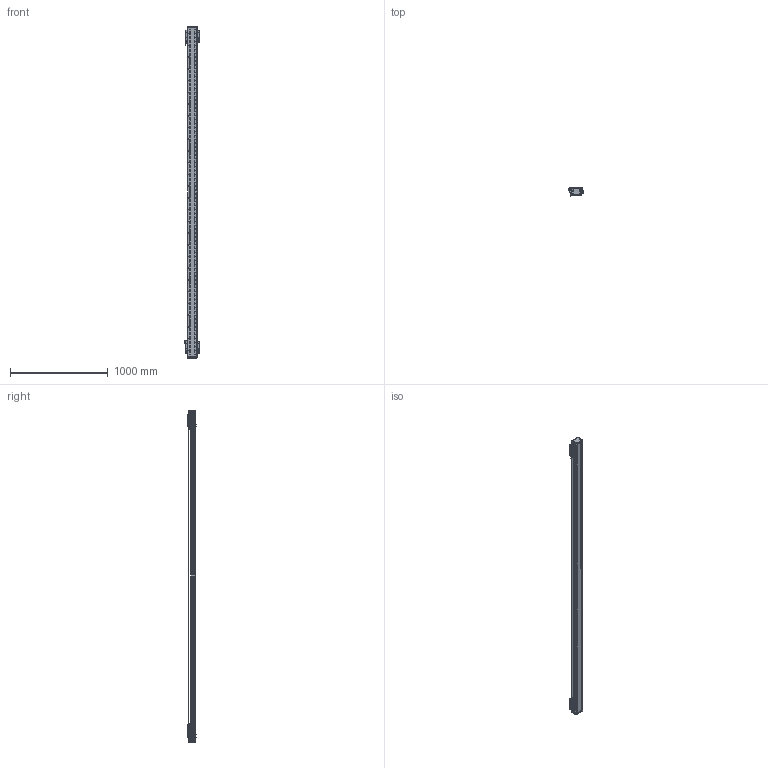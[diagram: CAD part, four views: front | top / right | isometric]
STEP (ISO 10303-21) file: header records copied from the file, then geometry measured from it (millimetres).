
FILE_DESCRIPTION (( 'STEP AP203' ), '1' );
FILE_NAME ('DA-B95-2-B15-T3020-C010-0.2 直线电机.STEP', '2023-05-06T06:45:09', ( '微软用户' ), ( '微软中国' ), 'SwSTEP 2.0', 'SolidWorks 2019', '' );
FILE_SCHEMA (( 'CONFIG_CONTROL_DESIGN' ));
Length unit declared in the file: millimetre
Products named in the file (34): LMDK-2-R001-V5-L02-C1-F00，0.2M 读数头^DA-A95-B15-T-C010-0.2-N 直线电机_DMA-010-0.2; 葩璃 PM-Y45^DA-A95-B15-T-C010-0.2-N 眻盄萇儂; 复件 DA95-DK-00 挡块^66245-BU95-V 滚珠滑台; IU-BU95-L-00 菁釱_L3360; DA-B95-2-B15-T3020-C010-0.2 眻盄萇儂; 复件 DA95-B15 钢带盖板^DA-A95-B15-T-C010-0.2-N 直线电机; 复件 纯铜油杯 6x6mm^66245-BU95-V 滚珠滑台; 复件 复件 18252-0001-004-00 钢带端盖^DA-A95-B15-T-C010-0.2-N 直线电机; 复件 DA95-B15-YB-A-00 压板A^66245-BU95-V 滚珠滑台; 葩璃 DA95-B15-DP--B-00 菜えB^66245-BU95-V 幗紩賑怢; 复件 DKW-HXJ-JY-00 缓冲橡胶^DA-A95-B15-T-C010-0.2-N 直线电机; B15 XD-U-02L ｴﾅﾕ､ｳﾟ^DA-A95-B15-T-C010-0.2-N ﾖｱﾏﾟｵ扈銈XD-U-02L; 复件 复件 18252-0001-002-00 钢带垫块^DA-A95-B15-T-C010-0.2-N 直线电机; 葩璃 DA95-GT-T-00^IU-BU95-L 菁釱絳寢_DA95; 66245-BU95-V-00 珨极趙賑雄怢啣; 复件 DKW-GYP-ZJ-00 中间光电感应片^DA-A95-B15-T-C010-0.2-N 直线电机; 复件 DA95-DB-00  挡板^66245-BU95-V 滚珠滑台; 66245-BU95-V 幗紩賑怢; 复件 66245-BU95-HT-V-01 滑动台板^66245-BU95-V-00 一体化滑动台板; DA95-HXJ-00 缓冲橡胶^DA-A95-B15-T-C010-0.2-N 直线电机; 葩璃 DA95-B15-DP-A-00 菜えA^66245-BU95-V 幗紩賑怢; 葩璃 BKMA01-W060-TRL^DA-A95-B15-T-C010-0.2-N 眻盄萇儂; 复件 DA95-HK-GT-00 滑块钢轨^66245-BU95-V-00 一体化滑动台板; IU-BU95-L 菁釱絳寢; 复件 六角薄螺母 M3^DA-A95-B15-T-C010-0.2-N 直线电机_GB_FASTENER_NUT_STNAB M3-C; 葩璃 BKM015-W060-C1-TP-DA-0.2^DA-A95-B15-T-C010-0.2-N 眻盄萇儂; PM-T45 光电开关^DA-A95-B15-T-C010-0.2-N 直线电机; DA-A95-GYP-00 光电感应片^DA-A95-B15-T-C010-0.2-N 直线电机; 复件 DA95-MFP-01 密封片^66245-BU95-V 滚珠滑台; 复件 DKW-KGZ-ZJ-00 中间光电开关支架^DA-A95-B15-T-C010-0.2-N 直线电机; 复件 DA95-B15-YB-B-00 压板B^66245-BU95-V 滚珠滑台; 复件 复件 18252-0001-003-00 钢带拉块^DA-A95-B15-T-C010-0.2-N 直线电机
Assembly tree (80 placements, depth 4):
  DA-B95-2-B15-T3020-C010-0.2 眻盄萇儂
    IU-BU95-L 菁釱絳寢
      IU-BU95-L-00 菁釱_L3360
      葩璃 DA95-GT-T-00^IU-BU95-L 菁釱絳寢_DA95  x2
    66245-BU95-V 幗紩賑怢
      66245-BU95-V-00 珨极趙賑雄怢啣
        复件 66245-BU95-HT-V-01 滑动台板^66245-BU95-V-00 一体化滑动台板
        复件 DA95-HK-GT-00 滑块钢轨^66245-BU95-V-00 一体化滑动台板  x2
      葩璃 DA95-B15-DP-A-00 菜えA^66245-BU95-V 幗紩賑怢
      复件 DA95-B15-YB-A-00 压板A^66245-BU95-V 滚珠滑台
      复件 DA95-B15-YB-B-00 压板B^66245-BU95-V 滚珠滑台
      复件 DA95-DB-00  挡板^66245-BU95-V 滚珠滑台  x4
      复件 DA95-DK-00 挡块^66245-BU95-V 滚珠滑台  x2
      复件 DA95-MFP-01 密封片^66245-BU95-V 滚珠滑台  x4
      复件 纯铜油杯 6x6mm^66245-BU95-V 滚珠滑台  x2
      葩璃 DA95-B15-DP--B-00 菜えB^66245-BU95-V 幗紩賑怢
    66245-BU95-V 幗紩賑怢
      66245-BU95-V-00 珨极趙賑雄怢啣
        复件 66245-BU95-HT-V-01 滑动台板^66245-BU95-V-00 一体化滑动台板
        复件 DA95-HK-GT-00 滑块钢轨^66245-BU95-V-00 一体化滑动台板  x2
      葩璃 DA95-B15-DP-A-00 菜えA^66245-BU95-V 幗紩賑怢
      复件 DA95-B15-YB-A-00 压板A^66245-BU95-V 滚珠滑台
      复件 DA95-B15-YB-B-00 压板B^66245-BU95-V 滚珠滑台
      复件 DA95-DB-00  挡板^66245-BU95-V 滚珠滑台  x4
      复件 DA95-DK-00 挡块^66245-BU95-V 滚珠滑台  x2
      复件 DA95-MFP-01 密封片^66245-BU95-V 滚珠滑台  x4
      复件 纯铜油杯 6x6mm^66245-BU95-V 滚珠滑台  x2
      葩璃 DA95-B15-DP--B-00 菜えB^66245-BU95-V 幗紩賑怢
    DA-A95-GYP-00 光电感应片^DA-A95-B15-T-C010-0.2-N 直线电机  x2
    LMDK-2-R001-V5-L02-C1-F00，0.2M 读数头^DA-A95-B15-T-C010-0.2-N 直线电机_DMA-010-0.2  x2
    复件 DKW-KGZ-ZJ-00 中间光电开关支架^DA-A95-B15-T-C010-0.2-N 直线电机
    葩璃 PM-Y45^DA-A95-B15-T-C010-0.2-N 眻盄萇儂
    复件 DKW-GYP-ZJ-00 中间光电感应片^DA-A95-B15-T-C010-0.2-N 直线电机
    葩璃 BKM015-W060-C1-TP-DA-0.2^DA-A95-B15-T-C010-0.2-N 眻盄萇儂  x2
    复件 DKW-HXJ-JY-00 缓冲橡胶^DA-A95-B15-T-C010-0.2-N 直线电机  x2
    PM-T45 光电开关^DA-A95-B15-T-C010-0.2-N 直线电机  x4
    B15 XD-U-02L ｴﾅﾕ､ｳﾟ^DA-A95-B15-T-C010-0.2-N ﾖｱﾏﾟｵ扈銈XD-U-02L
    复件 复件 18252-0001-003-00 钢带拉块^DA-A95-B15-T-C010-0.2-N 直线电机  x2
    复件 复件 18252-0001-002-00 钢带垫块^DA-A95-B15-T-C010-0.2-N 直线电机  x2
    复件 复件 18252-0001-004-00 钢带端盖^DA-A95-B15-T-C010-0.2-N 直线电机  x2
    复件 DA95-B15 钢带盖板^DA-A95-B15-T-C010-0.2-N 直线电机
    DA95-HXJ-00 缓冲橡胶^DA-A95-B15-T-C010-0.2-N 直线电机  x4
    葩璃 BKMA01-W060-TRL^DA-A95-B15-T-C010-0.2-N 眻盄萇儂
    复件 六角薄螺母 M3^DA-A95-B15-T-C010-0.2-N 直线电机_GB_FASTENER_NUT_STNAB M3-C  x6
Bounding box: 145.4 x 90.2 x 3396 mm (x, y, z)
Volume: 10614495.3 mm3; surface area: 3550468.4 mm2
Topology: 75 solids, 93 shells, 4568 faces, 13180 edges, 8399 vertices
Faces by surface type: cylinder 2437, plane 1599, cone 464, torus 64, sphere 4
Entity records: 119306 total; most frequent: CARTESIAN_POINT 32688, ORIENTED_EDGE 17718, DIRECTION 16814, EDGE_CURVE 8859, AXIS2_PLACEMENT_3D 6437, VERTEX_POINT 5801, LINE 3940, VECTOR 3940
